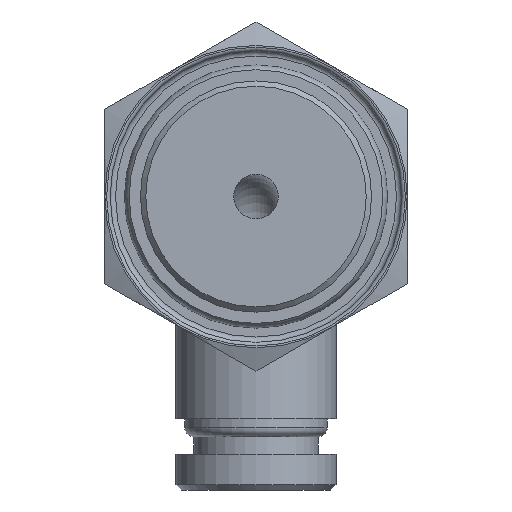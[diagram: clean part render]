
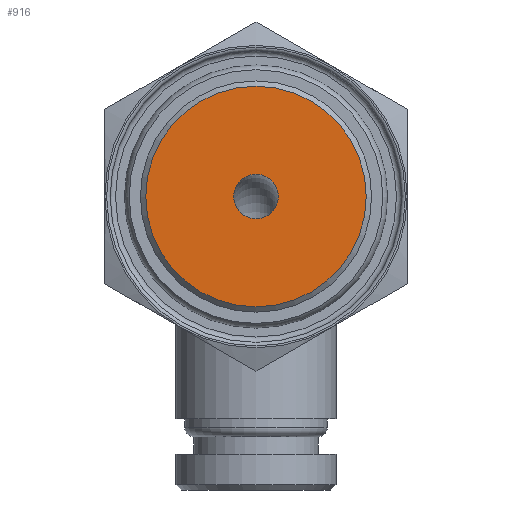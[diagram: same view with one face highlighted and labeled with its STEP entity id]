
A CAD part, front view. The second image highlights one B-rep face of the part: STEP entity #916.
In plain terms, the highlighted planar face has unit normal (0, -1, 0).
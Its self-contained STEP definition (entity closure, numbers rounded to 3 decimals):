
#74=FACE_BOUND('',#192,.T.);
#87=PLANE('',#1072);
#125=FACE_OUTER_BOUND('',#191,.T.);
#191=EDGE_LOOP('',(#661));
#192=EDGE_LOOP('',(#662));
#344=CIRCLE('',#1071,6.2);
#345=CIRCLE('',#1073,1.25);
#416=VERTEX_POINT('',#1563);
#417=VERTEX_POINT('',#1567);
#507=EDGE_CURVE('',#416,#416,#344,.T.);
#508=EDGE_CURVE('',#417,#417,#345,.T.);
#661=ORIENTED_EDGE('',*,*,#507,.F.);
#662=ORIENTED_EDGE('',*,*,#508,.T.);
#916=ADVANCED_FACE('',(#125,#74),#87,.T.);
#1071=AXIS2_PLACEMENT_3D('',#1565,#1251,#1252);
#1072=AXIS2_PLACEMENT_3D('',#1566,#1253,#1254);
#1073=AXIS2_PLACEMENT_3D('',#1568,#1255,#1256);
#1251=DIRECTION('center_axis',(0.,1.,0.));
#1252=DIRECTION('ref_axis',(0.,0.,1.));
#1253=DIRECTION('center_axis',(0.,-1.,0.));
#1254=DIRECTION('ref_axis',(0.,0.,-1.));
#1255=DIRECTION('center_axis',(0.,1.,0.));
#1256=DIRECTION('ref_axis',(1.,0.,0.));
#1563=CARTESIAN_POINT('',(0.,-14.,-6.2));
#1565=CARTESIAN_POINT('Origin',(0.,-14.,0.));
#1566=CARTESIAN_POINT('Origin',(0.,-14.,-6.5));
#1567=CARTESIAN_POINT('',(-1.25,-14.,0.));
#1568=CARTESIAN_POINT('Origin',(0.,-14.,0.));
